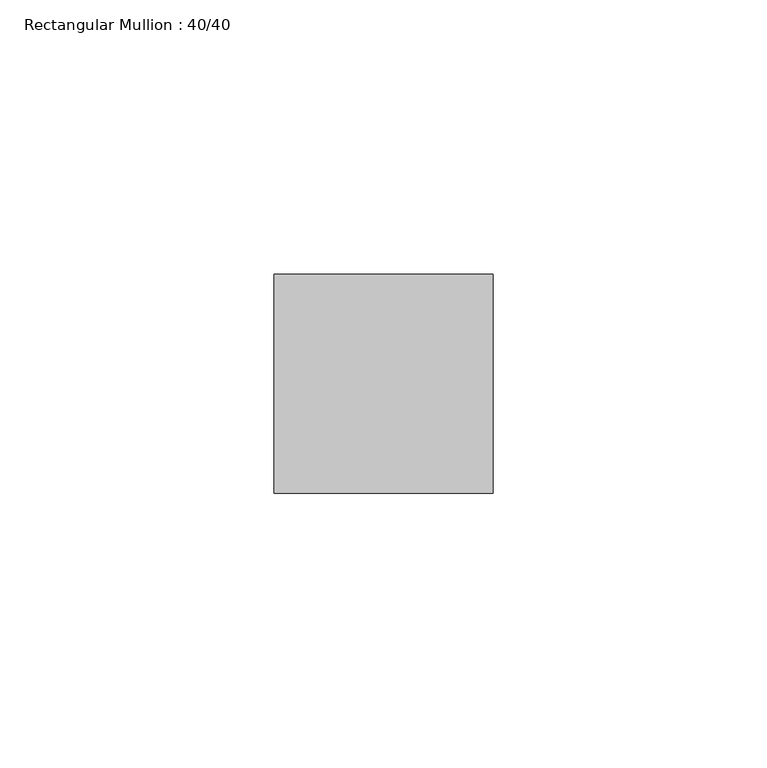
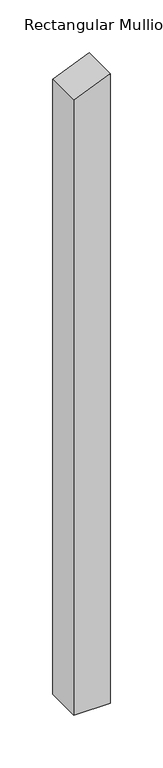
"""IFC4 building model written with IfcOpenShell, lengths in millimetres: member geometry, Rectangular Mullion : 40/40."""

from ifc_helpers import new_model, si_unit, frame, origin, place, context, project, spatial, polyline, outline, extrude, source, transform, mapped, element, save


def rectangular_mullion_40_40_eb6bbd94(model_context):
    return source(origin(), model_context, "Body", "SweptSolid", [
        extrude(outline(polyline([(0.0, 0.0), (-17.0250787, -40.0), (-730.0, -40.0), (-730.0, 0.0), (0.0, 0.0)])), frame((0.0, -20.0, 0.0), z_axis=(0.0, 1.0, 0.0), x_axis=(0.0, 0.0, 1.0)), (0.0, 0.0, 1.0), 40.0),
    ])


if __name__ == "__main__":
    model = new_model("IFC4")
    model_context = context("Model", 3, world=origin())
    ifc_project = project(units=[si_unit("LENGTHUNIT", "METRE", prefix="MILLI")], contexts=[model_context])
    site = spatial("IfcSite", under=ifc_project)
    building = spatial("IfcBuilding", under=site)
    placement = place(None, origin())
    rectangular_mullion_40_40_shape = rectangular_mullion_40_40_eb6bbd94(model_context)
    element("IfcMember", 1, ObjectType="Rectangular Mullion : 40/40", at=placement, inside=building, context=model_context, shape_type="MappedRepresentation", body=[
        mapped(rectangular_mullion_40_40_shape, transform((0.0, 0.0, 0.0), x_axis=(1.0, 0.0, 0.0), y_axis=(0.0, 1.0, 0.0), z_axis=(0.0, 0.0, 1.0))),
    ])
    save(model, "model.ifc")
